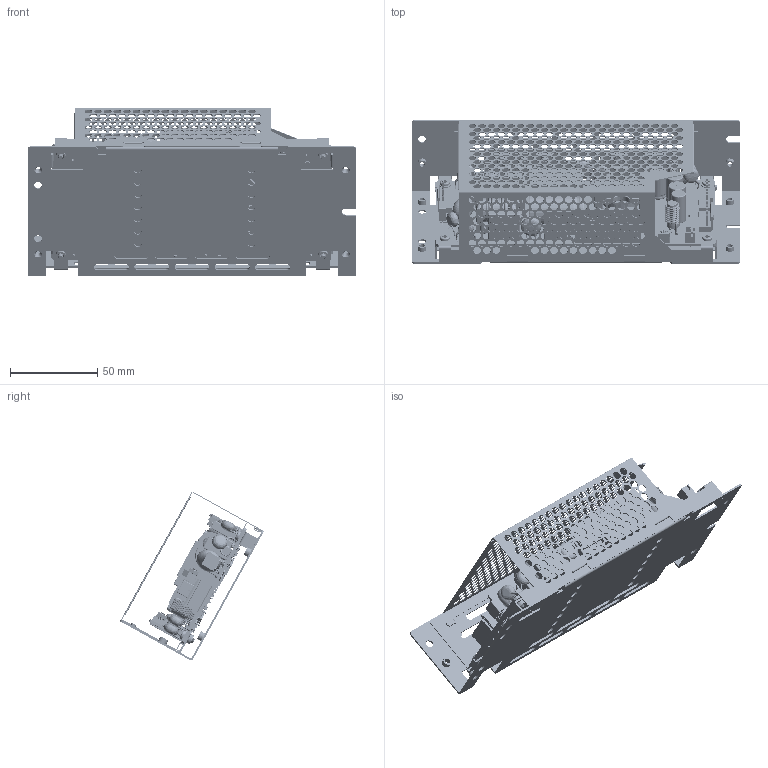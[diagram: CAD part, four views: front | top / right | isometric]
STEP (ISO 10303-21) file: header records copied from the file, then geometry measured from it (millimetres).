
FILE_DESCRIPTION((''),'2;1');
FILE_NAME('STP_PJ-XXV150WERA_ASM','2024-12-19T16:32:32',('EUNICE.HUANG'),(''),'CREO PARAMETRIC BY PTC INC, 2023294','CREO PARAMETRIC BY PTC INC, 2023294','');
FILE_SCHEMA(('AUTOMOTIVE_DESIGN { 1 0 10303 214 1 1 1 1 }'));
Products named in the file (374): 331609650101_CHASSIS_1_1; NEW_COVER_1_1; 3105325100-L6_1_1; ASM0001_ASM_1_ASM_1_ASM; PJB-24V150WC_ASM_1_ASM; BOARD_1; 0602304110_1; VR131_ASM_1_ASM; 1552491286-16854_1; 1552491286-16844_ASM_1_ASM; C48_ASM_1_ASM; 0341041342-BODY_1; 0341041342-COATING_1; 0341041342_ASM_1_ASM; R78_ASM_1_ASM; 0910100616_NTC11_5X5X15D08P5-AI; NTC1_ASM_1_ASM; 204840750107_1; D33_ASM_1_ASM; 0361296506-BODY_1; 0361296506-COATING_1; 0361296506_ASM_1_ASM; R45_ASM_1_ASM; PIN_1_1_1; 334830140102_1_1_1; RIGHT_ANGLE_1_1_1_1; 334830140102_ASM_1_ASM_1_ASM__1_ASM; M3_L8_1-26181_1; NUT-241_1-31964_1; M3L8_ASM_2_ASM_ASM_1_ASM; 334-HS100_ASM_1_ASM_ASM_1_ASM; 334-HS100_ASM_ASM_1_ASM; 334-HS100_ASM_1_ASM; HS100_ASM_1_ASM; L_PIN_L_1; 3348122100-33555_1; I_PIN_1; M3_L8_1; NUT-241_1; M3L8_ASM_ASM_1_ASM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
Assembly tree (531 placements, depth 10):
  STP_PJ-XXV150WERA_ASM
    PJB-24V150WC_ASM_1_ASM
      ASM0001_ASM_1_ASM_1_ASM
        331609650101_CHASSIS_1_1
        NEW_COVER_1_1
        3105325100-L6_1_1  x4
    STP_PJ-XXV150WDRA_ASM
      PJ-24V150WDRA_R2C0_ASM_1_ASM
        PCB_ASM_1_ASM
          BOARD_1
          VR131_ASM_1_ASM
            0602304110_1
          C48_ASM_1_ASM
            1552491286-16844_ASM_1_ASM
              1552491286-16854_1
          R78_ASM_1_ASM
            0341041342_ASM_1_ASM
              0341041342-BODY_1
              0341041342-COATING_1
          NTC1_ASM_1_ASM
            0910100616_NTC11_5X5X15D08P5-AI
          D33_ASM_1_ASM
            204840750107_1
          R45_ASM_1_ASM
            0361296506_ASM_1_ASM
              0361296506-BODY_1
              0361296506-COATING_1
          HS100_ASM_1_ASM
            334-HS100_ASM_1_ASM
              334-HS100_ASM_ASM_1_ASM
                334-HS100_ASM_1_ASM_ASM_1_ASM
                  334830140102_ASM_1_ASM_1_ASM__1_ASM
                  M3L8_ASM_2_ASM_ASM_1_ASM  x2
          HS2_ASM_1_ASM
            3348122100-32804_ASM_1_ASM
              L_PIN_L_1
              3348122100-33555_1
              I_PIN_1
              M3L8_ASM_ASM_1_ASM  x3
                M3_L8_1
                NUT-241_1
          R36_ASM_1_ASM
            0343270142_ASM_1_ASM
              0343270142-BODY_1
              0343270142-COATING_1
          L1_ASM_1_ASM
            2876443201_ASM_1_ASM
              CRV-NB21059_ASM_3_ASM_ASM_1_ASM
                WIRE_4_ASM_ASM_1_ASM
                  WIRE_4_1_1
                  WIRE_4_2_1
                3175585300_BASE_6_ASM_ASM_1_ASM
                  3175585300_BASE_6_1_1
                  3175585300_BASE_6_2_1
                  3175585300_BASE_6_3_1
          C15_ASM_1_ASM
            1101046264_1
          R145_ASM_1_ASM
            0311072032_ASM_1_ASM
              0311072032_ASM_1_1_2_3_ASM_AS_1_ASM
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Bounding box: 188 x 82.32 x 96.59 mm (x, y, z)
Volume: 114648.3 mm3; surface area: 171053.4 mm2
Topology: 378 solids, 382 shells, 12577 faces, 32508 edges, 20641 vertices
Faces by surface type: plane 5934, cylinder 4671, torus 982, bspline 565, sphere 217, cone 180, revolution 22, extrusion 6
Entity records: 419920 total; most frequent: CARTESIAN_POINT 156846, DIRECTION 45621, ORIENTED_EDGE 41640, EDGE_CURVE 20820, AXIS2_PLACEMENT_3D 17472, VERTEX_POINT 13219, PRESENTATION_STYLE_ASSIGNMENT 12550, STYLED_ITEM 12090
